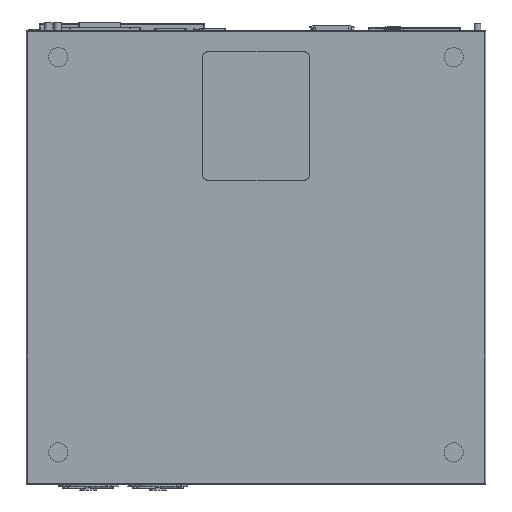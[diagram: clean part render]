
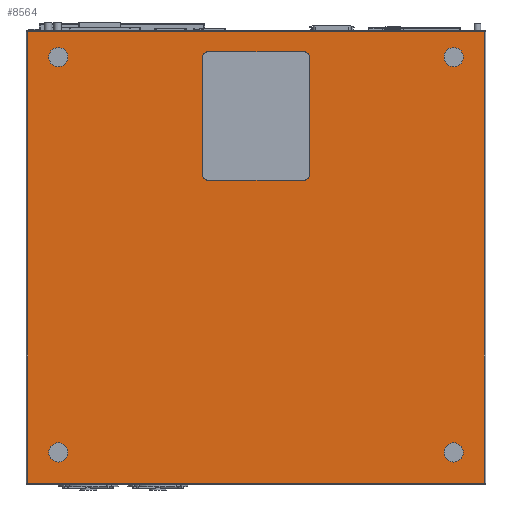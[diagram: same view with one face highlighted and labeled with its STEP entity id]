
A CAD part, front view. The second image highlights one B-rep face of the part: STEP entity #8564.
In plain terms, the highlighted planar face has unit normal (0, -1, 0).
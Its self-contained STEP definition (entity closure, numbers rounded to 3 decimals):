
#8564 = ADVANCED_FACE ( 'NONE', ( #88479, #88390 ), #67653, .T. ) ;
#27227 = EDGE_CURVE ( 'NONE', #69924, #69424, #105191, .T. ) ;
#27234 = EDGE_CURVE ( 'NONE', #69336, #69083, #105208, .T. ) ;
#30249 = ORIENTED_EDGE ( 'NONE', *, *, #124891, .T. ) ;
#30252 = ORIENTED_EDGE ( 'NONE', *, *, #124889, .T. ) ;
#30258 = ORIENTED_EDGE ( 'NONE', *, *, #27234, .F. ) ;
#30263 = ORIENTED_EDGE ( 'NONE', *, *, #124881, .T. ) ;
#30266 = ORIENTED_EDGE ( 'NONE', *, *, #124866, .F. ) ;
#30272 = ORIENTED_EDGE ( 'NONE', *, *, #124882, .T. ) ;
#30274 = ORIENTED_EDGE ( 'NONE', *, *, #124884, .T. ) ;
#30280 = ORIENTED_EDGE ( 'NONE', *, *, #124840, .F. ) ;
#30283 = ORIENTED_EDGE ( 'NONE', *, *, #124897, .T. ) ;
#30288 = ORIENTED_EDGE ( 'NONE', *, *, #124920, .T. ) ;
#30291 = ORIENTED_EDGE ( 'NONE', *, *, #27227, .T. ) ;
#30297 = ORIENTED_EDGE ( 'NONE', *, *, #124895, .T. ) ;
#30299 = ORIENTED_EDGE ( 'NONE', *, *, #124901, .T. ) ;
#30305 = ORIENTED_EDGE ( 'NONE', *, *, #124906, .T. ) ;
#30308 = ORIENTED_EDGE ( 'NONE', *, *, #124910, .T. ) ;
#30313 = ORIENTED_EDGE ( 'NONE', *, *, #124916, .T. ) ;
#48884 = VECTOR ( 'NONE', #105195, 1000. ) ;
#48887 = VECTOR ( 'NONE', #105212, 1000. ) ;
#61025 = EDGE_LOOP ( 'NONE', ( #30252, #30258, #30249, #30266, #30263, #30272, #30274, #30280 ) ) ;
#61876 = EDGE_LOOP ( 'NONE', ( #30288, #30291, #30297, #30283, #30299, #30305, #30308, #30313 ) ) ;
#67653 = PLANE ( 'NONE',  #88387 ) ;
#67654 = CARTESIAN_POINT ( 'NONE',  ( 71.984, -43.901, 208.451 ) ) ;
#67655 = DIRECTION ( 'NONE',  ( 0., -1., 0. ) ) ;
#67656 = DIRECTION ( 'NONE',  ( 0., 0., -1. ) ) ;
#68898 = VERTEX_POINT ( 'NONE', #144479 ) ;
#68993 = VERTEX_POINT ( 'NONE', #144582 ) ;
#69002 = VERTEX_POINT ( 'NONE', #144586 ) ;
#69054 = VERTEX_POINT ( 'NONE', #144632 ) ;
#69083 = VERTEX_POINT ( 'NONE', #144663 ) ;
#69336 = VERTEX_POINT ( 'NONE', #144800 ) ;
#69424 = VERTEX_POINT ( 'NONE', #144852 ) ;
#69643 = VERTEX_POINT ( 'NONE', #144979 ) ;
#69727 = VERTEX_POINT ( 'NONE', #145009 ) ;
#69742 = VERTEX_POINT ( 'NONE', #145015 ) ;
#69779 = VERTEX_POINT ( 'NONE', #145035 ) ;
#69847 = VERTEX_POINT ( 'NONE', #145075 ) ;
#69924 = VERTEX_POINT ( 'NONE', #145128 ) ;
#70052 = VERTEX_POINT ( 'NONE', #139732 ) ;
#70099 = VERTEX_POINT ( 'NONE', #139751 ) ;
#70122 = VERTEX_POINT ( 'NONE', #139763 ) ;
#88387 = AXIS2_PLACEMENT_3D ( 'NONE', #67654, #67655, #67656 ) ;
#88390 = FACE_BOUND ( 'NONE', #61876, .T. ) ;
#88479 = FACE_OUTER_BOUND ( 'NONE', #61025, .T. ) ;
#105191 = LINE ( 'NONE', #105192, #48884 ) ;
#105192 = CARTESIAN_POINT ( 'NONE',  ( 71.984, -43.901, 188.251 ) ) ;
#105195 = DIRECTION ( 'NONE',  ( 1., 0., 0. ) ) ;
#105208 = LINE ( 'NONE', #105211, #48887 ) ;
#105211 = CARTESIAN_POINT ( 'NONE',  ( 232.784, -43.901, 207.251 ) ) ;
#105212 = DIRECTION ( 'NONE',  ( 1., 0., 0. ) ) ;
#110679 = LINE ( 'NONE', #110681, #114546 ) ;
#110681 = CARTESIAN_POINT ( 'NONE',  ( -21.816, -43.901, -215.339 ) ) ;
#110683 = DIRECTION ( 'NONE',  ( -1., 0., 0. ) ) ;
#110842 = LINE ( 'NONE', #110844, #114597 ) ;
#110844 = CARTESIAN_POINT ( 'NONE',  ( -21.816, -43.901, -215.339 ) ) ;
#110846 = DIRECTION ( 'NONE',  ( -1., 0., 0. ) ) ;
#110932 = LINE ( 'NONE', #110934, #114626 ) ;
#110934 = CARTESIAN_POINT ( 'NONE',  ( -194.316, -43.901, 208.451 ) ) ;
#110936 = DIRECTION ( 'NONE',  ( 0., 0., -1. ) ) ;
#110938 = LINE ( 'NONE', #110940, #114628 ) ;
#110940 = CARTESIAN_POINT ( 'NONE',  ( 71.984, -43.901, -215.349 ) ) ;
#110942 = DIRECTION ( 'NONE',  ( 1., 0., 0. ) ) ;
#110950 = LINE ( 'NONE', #110952, #130152 ) ;
#110952 = CARTESIAN_POINT ( 'NONE',  ( 232.284, -43.901, 208.451 ) ) ;
#110954 = DIRECTION ( 'NONE',  ( 0., 0., 1. ) ) ;
#110980 = LINE ( 'NONE', #110982, #130156 ) ;
#110982 = CARTESIAN_POINT ( 'NONE',  ( 232.784, -43.901, 208.451 ) ) ;
#110984 = DIRECTION ( 'NONE',  ( 0., 0., 1. ) ) ;
#110990 = CARTESIAN_POINT ( 'NONE',  ( 63.984, -43.901, 183.251 ) ) ;
#110992 = LINE ( 'NONE', #110994, #130157 ) ;
#110994 = CARTESIAN_POINT ( 'NONE',  ( -194.816, -43.901, 208.451 ) ) ;
#110996 = DIRECTION ( 'NONE',  ( 0., 0., -1. ) ) ;
#111016 = DIRECTION ( 'NONE',  ( 0., 1., 0. ) ) ;
#111018 = DIRECTION ( 'NONE',  ( 0., 0., 1. ) ) ;
#111020 = CARTESIAN_POINT ( 'NONE',  ( 63.984, -43.901, 73.251 ) ) ;
#111028 = LINE ( 'NONE', #111030, #130164 ) ;
#111030 = CARTESIAN_POINT ( 'NONE',  ( 68.984, -43.901, 208.451 ) ) ;
#111032 = DIRECTION ( 'NONE',  ( 0., 0., -1. ) ) ;
#111052 = DIRECTION ( 'NONE',  ( 0., 1., 0. ) ) ;
#111054 = DIRECTION ( 'NONE',  ( 0., 0., 1. ) ) ;
#111056 = CARTESIAN_POINT ( 'NONE',  ( -26.016, -43.901, 73.251 ) ) ;
#111082 = LINE ( 'NONE', #111084, #130173 ) ;
#111084 = CARTESIAN_POINT ( 'NONE',  ( 71.984, -43.901, 68.251 ) ) ;
#111086 = DIRECTION ( 'NONE',  ( -1., 0., 0. ) ) ;
#111106 = DIRECTION ( 'NONE',  ( 0., 1., 0. ) ) ;
#111108 = DIRECTION ( 'NONE',  ( 0., 0., 1. ) ) ;
#111142 = LINE ( 'NONE', #111144, #130184 ) ;
#111144 = CARTESIAN_POINT ( 'NONE',  ( -31.016, -43.901, 208.451 ) ) ;
#111146 = DIRECTION ( 'NONE',  ( 0., 0., 1. ) ) ;
#111164 = CARTESIAN_POINT ( 'NONE',  ( -26.016, -43.901, 183.251 ) ) ;
#111166 = DIRECTION ( 'NONE',  ( 0., 1., 0. ) ) ;
#111168 = DIRECTION ( 'NONE',  ( 0., 0., 1. ) ) ;
#114546 = VECTOR ( 'NONE', #110683, 1000. ) ;
#114597 = VECTOR ( 'NONE', #110846, 1000. ) ;
#114611 = AXIS2_PLACEMENT_3D ( 'NONE', #110990, #111016, #111018 ) ;
#114626 = VECTOR ( 'NONE', #110936, 1000. ) ;
#114628 = VECTOR ( 'NONE', #110942, 1000. ) ;
#124840 = EDGE_CURVE ( 'NONE', #70099, #69742, #110679, .T. ) ;
#124866 = EDGE_CURVE ( 'NONE', #69643, #69054, #110842, .T. ) ;
#124881 = EDGE_CURVE ( 'NONE', #69643, #70052, #110932, .T. ) ;
#124882 = EDGE_CURVE ( 'NONE', #70052, #69002, #110938, .T. ) ;
#124884 = EDGE_CURVE ( 'NONE', #69002, #69742, #110950, .T. ) ;
#124889 = EDGE_CURVE ( 'NONE', #70099, #69083, #110980, .T. ) ;
#124891 = EDGE_CURVE ( 'NONE', #69336, #69054, #110992, .T. ) ;
#124895 = EDGE_CURVE ( 'NONE', #69424, #69727, #142532, .T. ) ;
#124897 = EDGE_CURVE ( 'NONE', #69727, #69847, #111028, .T. ) ;
#124901 = EDGE_CURVE ( 'NONE', #69847, #69779, #142533, .T. ) ;
#124906 = EDGE_CURVE ( 'NONE', #69779, #70122, #111082, .T. ) ;
#124910 = EDGE_CURVE ( 'NONE', #70122, #68898, #142534, .T. ) ;
#124916 = EDGE_CURVE ( 'NONE', #68898, #68993, #111142, .T. ) ;
#124920 = EDGE_CURVE ( 'NONE', #68993, #69924, #142537, .T. ) ;
#130152 = VECTOR ( 'NONE', #110954, 1000. ) ;
#130156 = VECTOR ( 'NONE', #110984, 1000. ) ;
#130157 = VECTOR ( 'NONE', #110996, 1000. ) ;
#130160 = AXIS2_PLACEMENT_3D ( 'NONE', #111164, #111166, #111168 ) ;
#130164 = VECTOR ( 'NONE', #111032, 1000. ) ;
#130167 = AXIS2_PLACEMENT_3D ( 'NONE', #111020, #111052, #111054 ) ;
#130173 = VECTOR ( 'NONE', #111086, 1000. ) ;
#130175 = AXIS2_PLACEMENT_3D ( 'NONE', #111056, #111106, #111108 ) ;
#130184 = VECTOR ( 'NONE', #111146, 1000. ) ;
#139732 = CARTESIAN_POINT ( 'NONE',  ( -194.316, -43.901, -215.349 ) ) ;
#139751 = CARTESIAN_POINT ( 'NONE',  ( 232.784, -43.901, -215.339 ) ) ;
#139763 = CARTESIAN_POINT ( 'NONE',  ( -26.016, -43.901, 68.251 ) ) ;
#142532 = CIRCLE ( 'NONE', #114611, 5. ) ;
#142533 = CIRCLE ( 'NONE', #130167, 5. ) ;
#142534 = CIRCLE ( 'NONE', #130175, 5. ) ;
#142537 = CIRCLE ( 'NONE', #130160, 5. ) ;
#144479 = CARTESIAN_POINT ( 'NONE',  ( -31.016, -43.901, 73.251 ) ) ;
#144582 = CARTESIAN_POINT ( 'NONE',  ( -31.016, -43.901, 183.251 ) ) ;
#144586 = CARTESIAN_POINT ( 'NONE',  ( 232.284, -43.901, -215.349 ) ) ;
#144632 = CARTESIAN_POINT ( 'NONE',  ( -194.816, -43.901, -215.339 ) ) ;
#144663 = CARTESIAN_POINT ( 'NONE',  ( 232.784, -43.901, 207.251 ) ) ;
#144800 = CARTESIAN_POINT ( 'NONE',  ( -194.816, -43.901, 207.251 ) ) ;
#144852 = CARTESIAN_POINT ( 'NONE',  ( 63.984, -43.901, 188.251 ) ) ;
#144979 = CARTESIAN_POINT ( 'NONE',  ( -194.316, -43.901, -215.339 ) ) ;
#145009 = CARTESIAN_POINT ( 'NONE',  ( 68.984, -43.901, 183.251 ) ) ;
#145015 = CARTESIAN_POINT ( 'NONE',  ( 232.284, -43.901, -215.339 ) ) ;
#145035 = CARTESIAN_POINT ( 'NONE',  ( 63.984, -43.901, 68.251 ) ) ;
#145075 = CARTESIAN_POINT ( 'NONE',  ( 68.984, -43.901, 73.251 ) ) ;
#145128 = CARTESIAN_POINT ( 'NONE',  ( -26.016, -43.901, 188.251 ) ) ;
